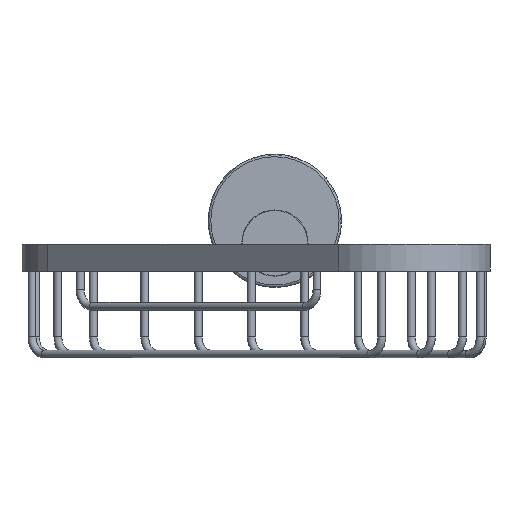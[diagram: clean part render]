
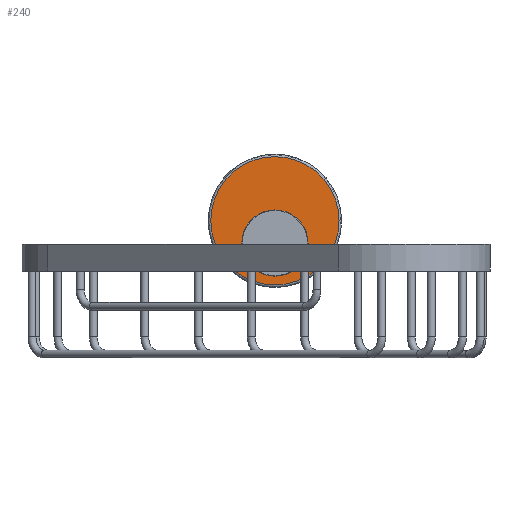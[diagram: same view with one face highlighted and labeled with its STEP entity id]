
A CAD part, front view. The second image highlights one B-rep face of the part: STEP entity #240.
In plain terms, the highlighted planar face has unit normal (0, -1, 0).
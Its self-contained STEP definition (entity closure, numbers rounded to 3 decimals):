
#240=ADVANCED_FACE('',(#433,#476),#362,.T.);
#362=PLANE('',#2195);
#433=FACE_OUTER_BOUND('',#691,.T.);
#476=FACE_BOUND('',#692,.T.);
#691=EDGE_LOOP('',(#1319));
#692=EDGE_LOOP('',(#1320));
#1319=ORIENTED_EDGE('',*,*,#1851,.T.);
#1320=ORIENTED_EDGE('',*,*,#1852,.T.);
#1637=VERTEX_POINT('',#3256);
#1638=VERTEX_POINT('',#3258);
#1851=EDGE_CURVE('',#1637,#1637,#2013,.T.);
#1852=EDGE_CURVE('',#1638,#1638,#2014,.T.);
#2013=CIRCLE('',#2193,24.5);
#2014=CIRCLE('',#2194,12.65);
#2193=AXIS2_PLACEMENT_3D('',#3255,#2629,#2630);
#2194=AXIS2_PLACEMENT_3D('',#3257,#2631,#2632);
#2195=AXIS2_PLACEMENT_3D('',#3259,#2633,#2634);
#2629=DIRECTION('',(0.,-1.,0.));
#2630=DIRECTION('',(0.,0.,-1.));
#2631=DIRECTION('',(0.,1.,0.));
#2632=DIRECTION('',(1.,0.,0.));
#2633=DIRECTION('',(0.,-1.,0.));
#2634=DIRECTION('',(0.,0.,-1.));
#3255=CARTESIAN_POINT('',(1629.5,23.1,-100.));
#3256=CARTESIAN_POINT('',(1629.5,23.1,-124.5));
#3257=CARTESIAN_POINT('',(1629.5,23.1,-108.5));
#3258=CARTESIAN_POINT('',(1642.15,23.1,-108.5));
#3259=CARTESIAN_POINT('',(1629.5,23.1,-100.));
